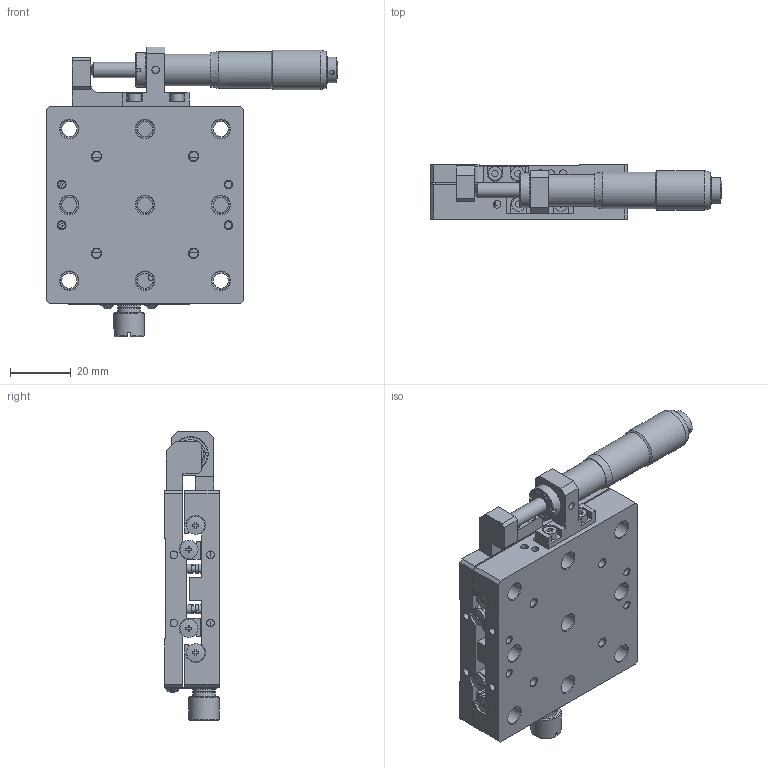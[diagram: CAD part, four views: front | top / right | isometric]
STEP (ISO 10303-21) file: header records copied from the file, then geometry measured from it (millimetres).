
FILE_DESCRIPTION (( 'STEP AP214' ), '1' );
FILE_NAME ('PHS-651SZ-M6.STEP', '2017-12-28T01:23:13', ( '' ), ( '' ), 'SwSTEP 2.0', 'SolidWorks 2014', '' );
FILE_SCHEMA (( 'AUTOMOTIVE_DESIGN' ));
Length unit declared in the file: millimetre
Products named in the file (45): M25-6_3-1_1; PHS-652-02A_1; PHS-652-01A_1; D4-1.5; CM25-3B_11_1; PRT0002-1-YT; D3-5-M25_3_1; M4-D10-5-1_1; PRT0001-1; NUT-13-1; SJP-2_1; PHS-66-05W-25ST(A); PHS-651SZ-M6; PHS-66-03; D4-8-11_1; PM25-5_1
Assembly tree (29 placements, depth 2):
  M25-6_3-1_1
  PHS-652-02A_1
  M25-6_3-1_1
  PHS-652-01A_1
  CM25-3B_11_1
Bounding box: 95.97 x 18 x 95.5 mm (x, y, z)
Volume: 71882.8 mm3; surface area: 39645.7 mm2
Topology: 29 solids, 29 shells, 706 faces, 1613 edges, 1066 vertices
Faces by surface type: plane 448, cylinder 187, cone 59, sphere 9, bspline 3
Full cylindrical faces by diameter (mm): 1.6 x1, 1.999 x4, 2 x19, 2.5 x59, 3 x18, 4 x4, 4.2 x1, 4.5 x4, 4.6 x1, 5 x11, 6 x17, 6.5 x4, 7.3 x1, 7.5 x3, 8.5 x2, 9.3 x1, 9.5 x4, 9.9 x1, 10 x1, 10.5 x1, 11.5 x5, 12.1 x1, 13.1 x1
Entity records: 18215 total; most frequent: CARTESIAN_POINT 2339, DIRECTION 2227, ORIENTED_EDGE 1764, EDGE_CURVE 882, AXIS2_PLACEMENT_3D 879, EDGE_LOOP 803, VERTEX_POINT 681, FACE_OUTER_BOUND 601
